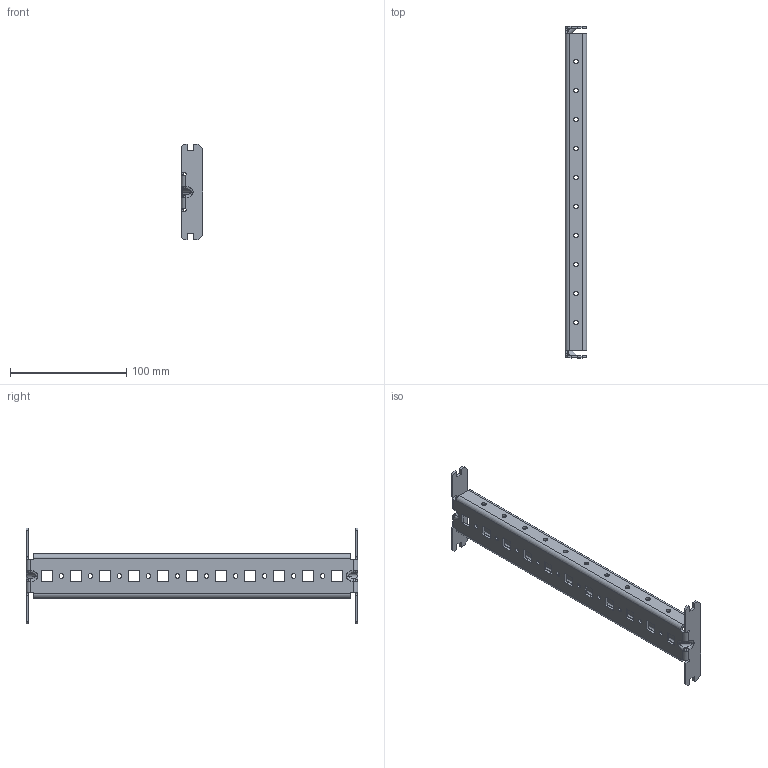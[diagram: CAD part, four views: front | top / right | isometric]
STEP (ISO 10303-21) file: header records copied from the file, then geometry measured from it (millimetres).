
FILE_DESCRIPTION (( 'STEP AP203' ), '1' );
FILE_NAME ('MG 40.04 CL Òðàâåðñà ìîíòàæíàÿ.STEP', '2015-07-21T10:50:01', ( 'System' ), ( '' ), 'SwSTEP 2.0', 'SolidWorks 2012', '' );
FILE_SCHEMA (( 'CONFIG_CONTROL_DESIGN' ));
Length unit declared in the file: millimetre
Products named in the file (1): MG 40.04 CL Òðàâåðñà ìîíòàæíàÿ
Bounding box: 18.5 x 286 x 82.5 mm (x, y, z)
Volume: 49135.8 mm3; surface area: 52850.9 mm2
Topology: 1 solids, 1 shells, 300 faces, 822 edges, 524 vertices
Faces by surface type: cylinder 134, plane 126, bspline 32, torus 8
Entity records: 10351 total; most frequent: CARTESIAN_POINT 2535, ORIENTED_EDGE 1644, DIRECTION 1596, EDGE_CURVE 822, AXIS2_PLACEMENT_3D 569, VERTEX_POINT 524, LINE 458, VECTOR 458
